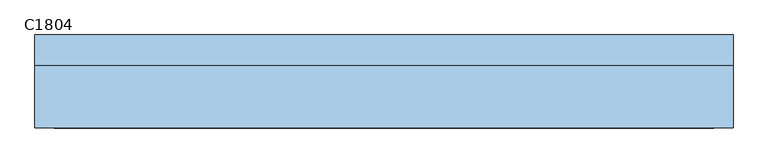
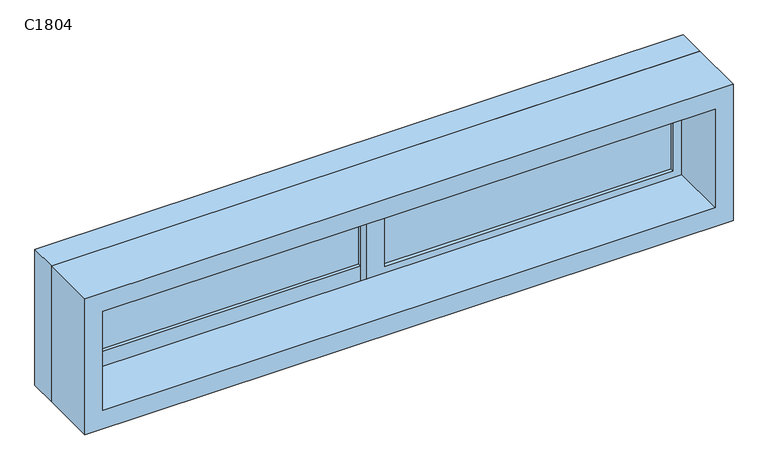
"""IFC4 building model written with IfcOpenShell, lengths in millimetres: window geometry, 推拉窗6 : C1804."""

from ifc_helpers import new_model, si_unit, frame, origin, place, context, project, spatial, polyline, outline, extrude, source, transform, mapped, element, save


def c1804_f212372e(model_context):
    return source(origin(), model_context, "Body", "SweptSolid", [
        extrude(outline(polyline([(-815.475, 23.1265625), (-15.475, 23.1265625), (-15.475, 13.1265625), (-815.475, 13.1265625), (-815.475, 23.1265625)])), frame((0.0, 0.0, 675.0), z_axis=(0.0, 0.0, 1.0), x_axis=(1.0, 0.0, 0.0)), (0.0, 0.0, 1.0), 250.0),
        extrude(outline(polyline([(34.525, -6.8734375), (834.525, -6.8734375), (834.525, -16.8734375), (34.525, -16.8734375), (34.525, -6.8734375)])), frame((0.0, 0.0, 675.0), z_axis=(0.0, 0.0, 1.0), x_axis=(1.0, 0.0, 0.0)), (0.0, 0.0, 1.0), 250.0),
        extrude(outline(polyline([(1000.0, -890.475), (600.0, -890.475), (600.0, 909.525), (1000.0, 909.525), (1000.0, -890.475)]), holes=[polyline([(945.0, 859.525), (655.0, 859.525), (655.0, -840.475), (945.0, -840.475), (945.0, 859.525)])]), frame((0.0, -186.8734375, 0.0), z_axis=(0.0, 1.0, 0.0), x_axis=(0.0, 0.0, 1.0)), (0.0, 0.0, 1.0), 160.0),
        extrude(outline(polyline([(625.0, 34.525), (975.0, 34.525), (975.0, -865.475), (625.0, -865.475), (625.0, 34.525)]), holes=[polyline([(675.0, -15.475), (675.0, -815.475), (925.0, -815.475), (925.0, -15.475), (675.0, -15.475)])]), frame((0.0, 3.1265625, 0.0), z_axis=(0.0, 1.0, 0.0), x_axis=(0.0, 0.0, 1.0)), (0.0, 0.0, 1.0), 30.0),
        extrude(outline(polyline([(975.0, -15.475), (625.0, -15.475), (625.0, 884.525), (975.0, 884.525), (975.0, -15.475)]), holes=[polyline([(925.0, 34.525), (925.0, 834.525), (675.0, 834.525), (675.0, 34.525), (925.0, 34.525)])]), frame((0.0, -26.8734375, 0.0), z_axis=(0.0, 1.0, 0.0), x_axis=(0.0, 0.0, 1.0)), (0.0, 0.0, 1.0), 30.0),
        extrude(outline(polyline([(1000.0, -890.475), (600.0, -890.475), (600.0, 909.525), (1000.0, 909.525), (1000.0, -890.475)]), holes=[polyline([(625.0, -865.475), (975.0, -865.475), (975.0, 884.525), (625.0, 884.525), (625.0, -865.475)])]), frame((0.0, -26.8734375, 0.0), z_axis=(0.0, 1.0, 0.0), x_axis=(0.0, 0.0, 1.0)), (0.0, 0.0, 1.0), 80.0),
    ])


if __name__ == "__main__":
    model = new_model("IFC4")
    model_context = context("Model", 3, world=origin())
    ifc_project = project(units=[si_unit("LENGTHUNIT", "METRE", prefix="MILLI")], contexts=[model_context])
    site = spatial("IfcSite", under=ifc_project)
    building = spatial("IfcBuilding", under=site)
    placement = place(None, origin())
    c1804_shape = c1804_f212372e(model_context)
    element("IfcWindow", 1, ObjectType="推拉窗6 : C1804", at=placement, inside=building, context=model_context, shape_type="MappedRepresentation", body=[
        mapped(c1804_shape, transform((0.0, 0.0, 0.0), x_axis=(1.0, 0.0, 0.0), y_axis=(0.0, 1.0, 0.0), z_axis=(0.0, 0.0, 1.0))),
    ])
    save(model, "model.ifc")
